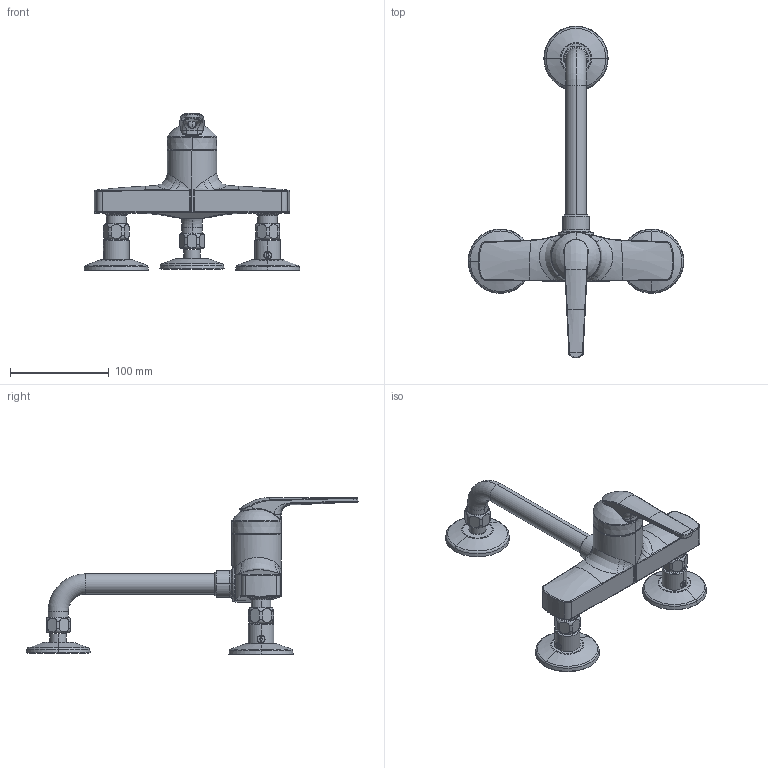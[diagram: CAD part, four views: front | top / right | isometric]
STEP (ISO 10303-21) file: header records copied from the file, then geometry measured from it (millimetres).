
FILE_DESCRIPTION((''),'2;1');
FILE_NAME('21_062_100_XXX','2012-06-12T',('azb9'),(''),'PRO/ENGINEER BY PARAMETRIC TECHNOLOGY CORPORATION, 2011080','PRO/ENGINEER BY PARAMETRIC TECHNOLOGY CORPORATION, 2011080','');
FILE_SCHEMA(('AUTOMOTIVE_DESIGN_CC2 { 1 2 10303 214 -1 1 5 2 }'));
Length unit declared in the file: millimetre
Products named in the file (1): 21_062_100_XXX
Bounding box: 218 x 335.44 x 158.69 mm (x, y, z)
Volume: 557472 mm3; surface area: 85193.1 mm2
Topology: 3 solids, 3 shells, 435 faces, 1039 edges, 623 vertices
Faces by surface type: bspline 137, cylinder 90, plane 81, torus 78, cone 38, sphere 11
Entity records: 27596 total; most frequent: CARTESIAN_POINT 13935, ORIENTED_EDGE 2074, DIRECTION 1718, EDGE_CURVE 1037, AXIS2_PLACEMENT_3D 750, FILL_AREA_STYLE_COLOUR 730, FILL_AREA_STYLE 730, SURFACE_STYLE_FILL_AREA 730
